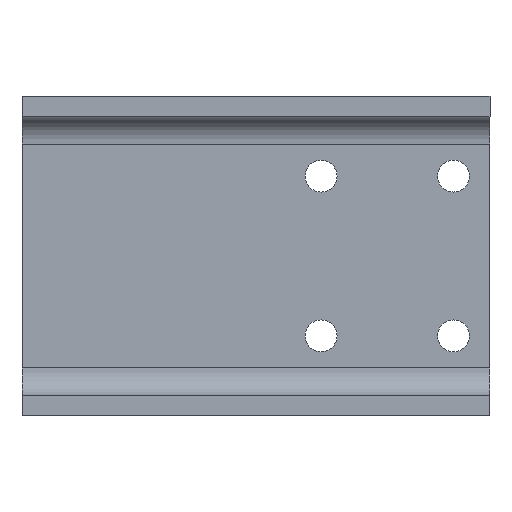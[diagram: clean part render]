
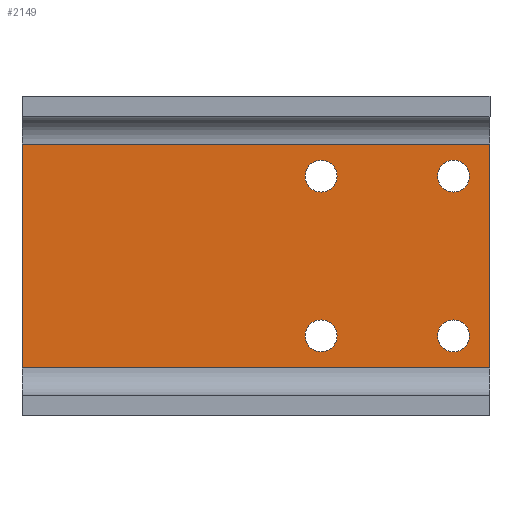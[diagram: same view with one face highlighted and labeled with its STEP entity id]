
A CAD part, left-side view. The second image highlights one B-rep face of the part: STEP entity #2149.
In plain terms, the highlighted planar face has unit normal (-1, 0, 0).
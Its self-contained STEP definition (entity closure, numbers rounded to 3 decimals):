
#104 = VERTEX_POINT ( 'NONE', #2280 ) ;
#152 = EDGE_LOOP ( 'NONE', ( #1834, #330 ) ) ;
#170 = DIRECTION ( 'NONE',  ( 0., 0., 1. ) ) ;
#173 = DIRECTION ( 'NONE',  ( 0., 0., 1. ) ) ;
#206 = CARTESIAN_POINT ( 'NONE',  ( -55., 1945., 2171. ) ) ;
#211 = ORIENTED_EDGE ( 'NONE', *, *, #905, .T. ) ;
#249 = DIRECTION ( 'NONE',  ( 1., 0., 0. ) ) ;
#250 = ORIENTED_EDGE ( 'NONE', *, *, #631, .F. ) ;
#309 = VERTEX_POINT ( 'NONE', #1995 ) ;
#330 = ORIENTED_EDGE ( 'NONE', *, *, #1206, .F. ) ;
#351 = DIRECTION ( 'NONE',  ( -1., 0., 0. ) ) ;
#421 = DIRECTION ( 'NONE',  ( -1., 0., 0. ) ) ;
#454 = EDGE_CURVE ( 'NONE', #2806, #1285, #2623, .T. ) ;
#466 = CARTESIAN_POINT ( 'NONE',  ( -55., 1945., 2171. ) ) ;
#482 = FACE_BOUND ( 'NONE', #1331, .T. ) ;
#516 = FACE_BOUND ( 'NONE', #152, .T. ) ;
#551 = VECTOR ( 'NONE', #2618, 1000. ) ;
#558 = CARTESIAN_POINT ( 'NONE',  ( -55., 1756., 2248. ) ) ;
#594 = DIRECTION ( 'NONE',  ( -1., 0., 0. ) ) ;
#631 = EDGE_CURVE ( 'NONE', #104, #309, #2738, .T. ) ;
#635 = LINE ( 'NONE', #654, #551 ) ;
#642 = CARTESIAN_POINT ( 'NONE',  ( -55., 1756., 2185. ) ) ;
#654 = CARTESIAN_POINT ( 'NONE',  ( -55., 1740., 2171. ) ) ;
#668 = DIRECTION ( 'NONE',  ( 0., 1., 0. ) ) ;
#728 = EDGE_CURVE ( 'NONE', #1449, #771, #3396, .T. ) ;
#771 = VERTEX_POINT ( 'NONE', #206 ) ;
#819 = DIRECTION ( 'NONE',  ( 0., 1., 0. ) ) ;
#851 = ORIENTED_EDGE ( 'NONE', *, *, #3214, .F. ) ;
#871 = DIRECTION ( 'NONE',  ( 0., 0., 1. ) ) ;
#885 = CARTESIAN_POINT ( 'NONE',  ( -55., 1740., 2171. ) ) ;
#905 = EDGE_CURVE ( 'NONE', #2110, #771, #2943, .T. ) ;
#913 = ORIENTED_EDGE ( 'NONE', *, *, #3196, .F. ) ;
#1049 = CIRCLE ( 'NONE', #2150, 7. ) ;
#1081 = ORIENTED_EDGE ( 'NONE', *, *, #1965, .F. ) ;
#1118 = AXIS2_PLACEMENT_3D ( 'NONE', #2529, #2245, #871 ) ;
#1130 = CARTESIAN_POINT ( 'NONE',  ( -55., 1756., 2255. ) ) ;
#1131 = ORIENTED_EDGE ( 'NONE', *, *, #728, .F. ) ;
#1153 = CARTESIAN_POINT ( 'NONE',  ( -55., 1814., 2185. ) ) ;
#1167 = CIRCLE ( 'NONE', #1638, 7. ) ;
#1194 = DIRECTION ( 'NONE',  ( -1., 0., 0. ) ) ;
#1206 = EDGE_CURVE ( 'NONE', #2412, #1579, #1167, .T. ) ;
#1207 = CARTESIAN_POINT ( 'NONE',  ( -55., 1740., 2171. ) ) ;
#1234 = CIRCLE ( 'NONE', #1118, 7. ) ;
#1285 = VERTEX_POINT ( 'NONE', #2736 ) ;
#1324 = EDGE_LOOP ( 'NONE', ( #250, #2114 ) ) ;
#1331 = EDGE_LOOP ( 'NONE', ( #1081, #2941 ) ) ;
#1336 = DIRECTION ( 'NONE',  ( 0., 0., -1. ) ) ;
#1418 = DIRECTION ( 'NONE',  ( 0., 0., 1. ) ) ;
#1427 = DIRECTION ( 'NONE',  ( 0., 0., 1. ) ) ;
#1449 = VERTEX_POINT ( 'NONE', #885 ) ;
#1461 = DIRECTION ( 'NONE',  ( -1., 0., 0. ) ) ;
#1499 = VERTEX_POINT ( 'NONE', #3120 ) ;
#1530 = CARTESIAN_POINT ( 'NONE',  ( -55., 1814., 2178. ) ) ;
#1539 = CARTESIAN_POINT ( 'NONE',  ( -55., 1756., 2255. ) ) ;
#1564 = EDGE_CURVE ( 'NONE', #1579, #2412, #1049, .T. ) ;
#1566 = FACE_OUTER_BOUND ( 'NONE', #1572, .T. ) ;
#1572 = EDGE_LOOP ( 'NONE', ( #211, #1131, #851, #2388 ) ) ;
#1579 = VERTEX_POINT ( 'NONE', #1959 ) ;
#1585 = FACE_BOUND ( 'NONE', #2928, .T. ) ;
#1638 = AXIS2_PLACEMENT_3D ( 'NONE', #2582, #1194, #2034 ) ;
#1710 = AXIS2_PLACEMENT_3D ( 'NONE', #3238, #249, #2109 ) ;
#1834 = ORIENTED_EDGE ( 'NONE', *, *, #1564, .F. ) ;
#1847 = CARTESIAN_POINT ( 'NONE',  ( -55., 1814., 2248. ) ) ;
#1928 = VECTOR ( 'NONE', #819, 1000. ) ;
#1959 = CARTESIAN_POINT ( 'NONE',  ( -55., 1814., 2192. ) ) ;
#1965 = EDGE_CURVE ( 'NONE', #1285, #2806, #2968, .T. ) ;
#1995 = CARTESIAN_POINT ( 'NONE',  ( -55., 1756., 2178. ) ) ;
#2034 = DIRECTION ( 'NONE',  ( 0., 0., 1. ) ) ;
#2091 = EDGE_CURVE ( 'NONE', #3256, #3422, #2970, .T. ) ;
#2092 = CARTESIAN_POINT ( 'NONE',  ( -55., 1945., 2269. ) ) ;
#2109 = DIRECTION ( 'NONE',  ( 0., 0., -1. ) ) ;
#2110 = VERTEX_POINT ( 'NONE', #2092 ) ;
#2114 = ORIENTED_EDGE ( 'NONE', *, *, #2501, .F. ) ;
#2144 = AXIS2_PLACEMENT_3D ( 'NONE', #1539, #2646, #173 ) ;
#2149 = ADVANCED_FACE ( 'NONE', ( #482, #2434, #516, #1585, #1566 ), #3223, .F. ) ;
#2150 = AXIS2_PLACEMENT_3D ( 'NONE', #1153, #1461, #2276 ) ;
#2189 = CARTESIAN_POINT ( 'NONE',  ( -55., 1740., 2269. ) ) ;
#2213 = CIRCLE ( 'NONE', #2863, 7. ) ;
#2245 = DIRECTION ( 'NONE',  ( -1., 0., 0. ) ) ;
#2276 = DIRECTION ( 'NONE',  ( 0., 0., 1. ) ) ;
#2280 = CARTESIAN_POINT ( 'NONE',  ( -55., 1756., 2192. ) ) ;
#2299 = CARTESIAN_POINT ( 'NONE',  ( -55., 1814., 2262. ) ) ;
#2326 = AXIS2_PLACEMENT_3D ( 'NONE', #642, #594, #1418 ) ;
#2337 = AXIS2_PLACEMENT_3D ( 'NONE', #2644, #421, #170 ) ;
#2343 = EDGE_CURVE ( 'NONE', #1499, #2110, #3310, .T. ) ;
#2388 = ORIENTED_EDGE ( 'NONE', *, *, #2343, .T. ) ;
#2412 = VERTEX_POINT ( 'NONE', #1530 ) ;
#2434 = FACE_BOUND ( 'NONE', #1324, .T. ) ;
#2501 = EDGE_CURVE ( 'NONE', #309, #104, #2213, .T. ) ;
#2529 = CARTESIAN_POINT ( 'NONE',  ( -55., 1814., 2255. ) ) ;
#2570 = AXIS2_PLACEMENT_3D ( 'NONE', #1130, #351, #3115 ) ;
#2582 = CARTESIAN_POINT ( 'NONE',  ( -55., 1814., 2185. ) ) ;
#2618 = DIRECTION ( 'NONE',  ( 0., 0., -1. ) ) ;
#2623 = CIRCLE ( 'NONE', #2144, 7. ) ;
#2644 = CARTESIAN_POINT ( 'NONE',  ( -55., 1814., 2255. ) ) ;
#2646 = DIRECTION ( 'NONE',  ( -1., 0., 0. ) ) ;
#2736 = CARTESIAN_POINT ( 'NONE',  ( -55., 1756., 2262. ) ) ;
#2738 = CIRCLE ( 'NONE', #2326, 7. ) ;
#2800 = CARTESIAN_POINT ( 'NONE',  ( -55., 1756., 2185. ) ) ;
#2806 = VERTEX_POINT ( 'NONE', #558 ) ;
#2863 = AXIS2_PLACEMENT_3D ( 'NONE', #2800, #3054, #1427 ) ;
#2928 = EDGE_LOOP ( 'NONE', ( #3278, #913 ) ) ;
#2941 = ORIENTED_EDGE ( 'NONE', *, *, #454, .F. ) ;
#2943 = LINE ( 'NONE', #466, #3259 ) ;
#2968 = CIRCLE ( 'NONE', #2570, 7. ) ;
#2970 = CIRCLE ( 'NONE', #2337, 7. ) ;
#3054 = DIRECTION ( 'NONE',  ( -1., 0., 0. ) ) ;
#3115 = DIRECTION ( 'NONE',  ( 0., 0., 1. ) ) ;
#3120 = CARTESIAN_POINT ( 'NONE',  ( -55., 1740., 2269. ) ) ;
#3142 = VECTOR ( 'NONE', #668, 1000. ) ;
#3196 = EDGE_CURVE ( 'NONE', #3422, #3256, #1234, .T. ) ;
#3214 = EDGE_CURVE ( 'NONE', #1499, #1449, #635, .T. ) ;
#3223 = PLANE ( 'NONE',  #1710 ) ;
#3238 = CARTESIAN_POINT ( 'NONE',  ( -55., 1740., 2171. ) ) ;
#3256 = VERTEX_POINT ( 'NONE', #2299 ) ;
#3259 = VECTOR ( 'NONE', #1336, 1000. ) ;
#3278 = ORIENTED_EDGE ( 'NONE', *, *, #2091, .F. ) ;
#3310 = LINE ( 'NONE', #2189, #1928 ) ;
#3396 = LINE ( 'NONE', #1207, #3142 ) ;
#3422 = VERTEX_POINT ( 'NONE', #1847 ) ;
